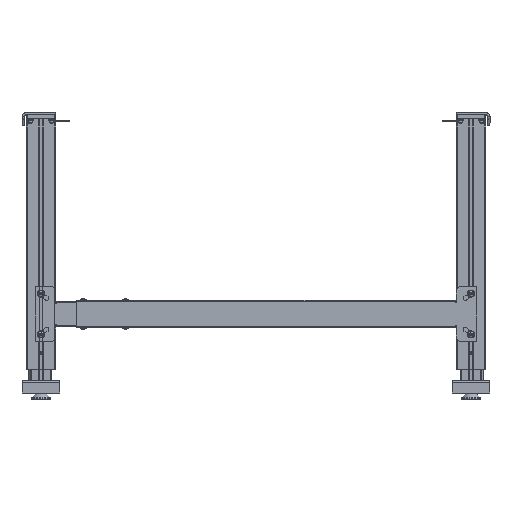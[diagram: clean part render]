
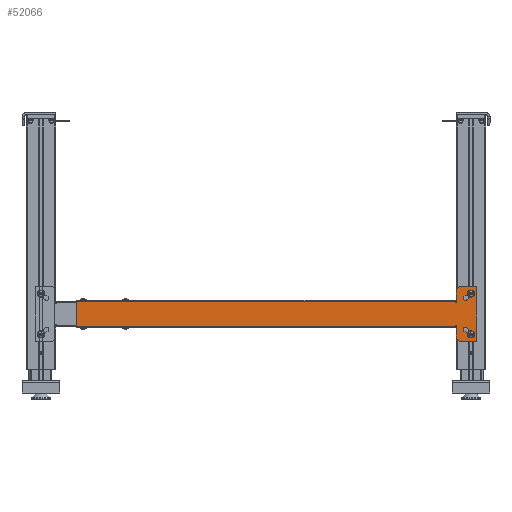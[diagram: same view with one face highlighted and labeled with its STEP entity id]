
A CAD part, left-side view. The second image highlights one B-rep face of the part: STEP entity #52066.
In plain terms, the highlighted planar face has unit normal (-1, 0, 0) as drawn and (0, 0, -1) by its records, which use the part's own axes.
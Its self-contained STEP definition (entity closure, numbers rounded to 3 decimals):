
#3977=CIRCLE('',#68711,4.75);
#3979=CIRCLE('',#68716,4.75);
#3987=CIRCLE('',#68733,4.75);
#3988=CIRCLE('',#68734,4.75);
#3989=CIRCLE('',#68735,10.);
#3990=CIRCLE('',#68736,10.);
#3991=CIRCLE('',#68737,1.75);
#3992=CIRCLE('',#68738,1.75);
#17549=ORIENTED_EDGE('',*,*,#26263,.F.);
#17550=ORIENTED_EDGE('',*,*,#26227,.F.);
#17551=ORIENTED_EDGE('',*,*,#26231,.F.);
#17552=ORIENTED_EDGE('',*,*,#26234,.F.);
#17553=ORIENTED_EDGE('',*,*,#26264,.F.);
#17554=ORIENTED_EDGE('',*,*,#26217,.F.);
#17555=ORIENTED_EDGE('',*,*,#26221,.F.);
#17556=ORIENTED_EDGE('',*,*,#26224,.F.);
#17557=ORIENTED_EDGE('',*,*,#26246,.F.);
#17558=ORIENTED_EDGE('',*,*,#26265,.T.);
#17559=ORIENTED_EDGE('',*,*,#26241,.F.);
#17560=ORIENTED_EDGE('',*,*,#26239,.F.);
#17561=ORIENTED_EDGE('',*,*,#26254,.F.);
#17562=ORIENTED_EDGE('',*,*,#26266,.T.);
#17563=ORIENTED_EDGE('',*,*,#26248,.F.);
#17564=ORIENTED_EDGE('',*,*,#26267,.F.);
#17565=ORIENTED_EDGE('',*,*,#26173,.T.);
#17566=ORIENTED_EDGE('',*,*,#26256,.F.);
#17567=ORIENTED_EDGE('',*,*,#26215,.T.);
#17568=ORIENTED_EDGE('',*,*,#26268,.F.);
#26173=EDGE_CURVE('',#31667,#31666,#36824,.T.);
#26215=EDGE_CURVE('',#31696,#31697,#36845,.T.);
#26217=EDGE_CURVE('',#31698,#31699,#36846,.T.);
#26221=EDGE_CURVE('',#31702,#31698,#3977,.T.);
#26224=EDGE_CURVE('',#31704,#31702,#36851,.T.);
#26227=EDGE_CURVE('',#31706,#31707,#36854,.T.);
#26231=EDGE_CURVE('',#31710,#31706,#3979,.T.);
#26234=EDGE_CURVE('',#31712,#31710,#36859,.T.);
#26239=EDGE_CURVE('',#31716,#31717,#36864,.T.);
#26241=EDGE_CURVE('',#31717,#31718,#36866,.T.);
#26246=EDGE_CURVE('',#31722,#31723,#36871,.T.);
#26248=EDGE_CURVE('',#31724,#31725,#36873,.T.);
#26254=EDGE_CURVE('',#31729,#31716,#36879,.T.);
#26256=EDGE_CURVE('',#31696,#31666,#36881,.T.);
#26263=EDGE_CURVE('',#31707,#31712,#3987,.T.);
#26264=EDGE_CURVE('',#31699,#31704,#3988,.T.);
#26265=EDGE_CURVE('',#31722,#31718,#3989,.T.);
#26266=EDGE_CURVE('',#31729,#31725,#3990,.T.);
#26267=EDGE_CURVE('',#31667,#31724,#3991,.T.);
#26268=EDGE_CURVE('',#31723,#31697,#3992,.T.);
#31666=VERTEX_POINT('',#98464);
#31667=VERTEX_POINT('',#98466);
#31696=VERTEX_POINT('',#98553);
#31697=VERTEX_POINT('',#98555);
#31698=VERTEX_POINT('',#98564);
#31699=VERTEX_POINT('',#98565);
#31702=VERTEX_POINT('',#98573);
#31704=VERTEX_POINT('',#98579);
#31706=VERTEX_POINT('',#98585);
#31707=VERTEX_POINT('',#98586);
#31710=VERTEX_POINT('',#98594);
#31712=VERTEX_POINT('',#98600);
#31716=VERTEX_POINT('',#98609);
#31717=VERTEX_POINT('',#98611);
#31718=VERTEX_POINT('',#98615);
#31722=VERTEX_POINT('',#98624);
#31723=VERTEX_POINT('',#98626);
#31724=VERTEX_POINT('',#98630);
#31725=VERTEX_POINT('',#98631);
#31729=VERTEX_POINT('',#98641);
#36824=LINE('',#98465,#41794);
#36845=LINE('',#98556,#41815);
#36846=LINE('',#98563,#41816);
#36851=LINE('',#98578,#41821);
#36854=LINE('',#98584,#41824);
#36859=LINE('',#98599,#41829);
#36864=LINE('',#98610,#41834);
#36866=LINE('',#98614,#41836);
#36871=LINE('',#98625,#41841);
#36873=LINE('',#98629,#41843);
#36879=LINE('',#98642,#41849);
#36881=LINE('',#98645,#41851);
#41794=VECTOR('',#82351,1000.);
#41815=VECTOR('',#82434,1000.);
#41816=VECTOR('',#82439,1000.);
#41821=VECTOR('',#82452,1000.);
#41824=VECTOR('',#82457,1000.);
#41829=VECTOR('',#82470,1000.);
#41834=VECTOR('',#82477,1000.);
#41836=VECTOR('',#82481,1000.);
#41841=VECTOR('',#82488,1000.);
#41843=VECTOR('',#82492,1000.);
#41849=VECTOR('',#82500,1000.);
#41851=VECTOR('',#82504,1000.);
#44694=EDGE_LOOP('',(#17549,#17550,#17551,#17552));
#44695=EDGE_LOOP('',(#17553,#17554,#17555,#17556));
#44696=EDGE_LOOP('',(#17557,#17558,#17559,#17560,#17561,#17562,#17563,#17564,
#17565,#17566,#17567,#17568));
#47679=FACE_BOUND('',#44694,.T.);
#47680=FACE_BOUND('',#44695,.T.);
#47681=FACE_BOUND('',#44696,.T.);
#49587=PLANE('',#68732);
#52066=ADVANCED_FACE('',(#47679,#47680,#47681),#49587,.T.);
#68711=AXIS2_PLACEMENT_3D('',#98572,#82445,#82446);
#68716=AXIS2_PLACEMENT_3D('',#98593,#82463,#82464);
#68732=AXIS2_PLACEMENT_3D('',#98653,#82519,#82520);
#68733=AXIS2_PLACEMENT_3D('',#98654,#82521,#82522);
#68734=AXIS2_PLACEMENT_3D('',#98655,#82523,#82524);
#68735=AXIS2_PLACEMENT_3D('',#98656,#82525,#82526);
#68736=AXIS2_PLACEMENT_3D('',#98657,#82527,#82528);
#68737=AXIS2_PLACEMENT_3D('',#98658,#82529,#82530);
#68738=AXIS2_PLACEMENT_3D('',#98659,#82531,#82532);
#82351=DIRECTION('',(1.,0.,0.));
#82434=DIRECTION('',(-1.,0.,0.));
#82439=DIRECTION('',(0.766,0.643,0.));
#82445=DIRECTION('',(0.,0.,-1.));
#82446=DIRECTION('',(-1.,0.,0.));
#82452=DIRECTION('',(-0.766,-0.643,0.));
#82457=DIRECTION('',(0.766,-0.643,0.));
#82463=DIRECTION('',(0.,0.,-1.));
#82464=DIRECTION('',(-1.,0.,0.));
#82470=DIRECTION('',(-0.766,0.643,0.));
#82477=DIRECTION('',(0.,-1.,0.));
#82481=DIRECTION('',(1.,0.,0.));
#82488=DIRECTION('',(0.,1.,0.));
#82492=DIRECTION('',(0.,1.,0.));
#82500=DIRECTION('',(-1.,0.,0.));
#82504=DIRECTION('',(0.,1.,0.));
#82519=DIRECTION('',(0.,0.,-1.));
#82520=DIRECTION('',(-1.,0.,0.));
#82521=DIRECTION('',(0.,0.,-1.));
#82522=DIRECTION('',(-1.,0.,0.));
#82523=DIRECTION('',(0.,0.,-1.));
#82524=DIRECTION('',(-1.,0.,0.));
#82525=DIRECTION('',(0.,0.,-1.));
#82526=DIRECTION('',(-1.,0.,0.));
#82527=DIRECTION('',(0.,0.,-1.));
#82528=DIRECTION('',(-1.,0.,0.));
#82529=DIRECTION('',(0.,0.,-1.));
#82530=DIRECTION('',(-1.,0.,0.));
#82531=DIRECTION('',(0.,0.,-1.));
#82532=DIRECTION('',(1.,0.,0.));
#98464=CARTESIAN_POINT('',(924.,29.9,-2.5));
#98465=CARTESIAN_POINT('',(26.,29.9,-2.5));
#98466=CARTESIAN_POINT('',(26.747,29.9,-2.5));
#98553=CARTESIAN_POINT('',(924.,-29.9,-2.5));
#98555=CARTESIAN_POINT('',(26.754,-29.9,-2.5));
#98556=CARTESIAN_POINT('',(924.,-29.9,-2.5));
#98563=CARTESIAN_POINT('',(16.196,-19.301,-2.5));
#98564=CARTESIAN_POINT('',(-16.053,-46.361,-2.5));
#98565=CARTESIAN_POINT('',(-0.349,-33.184,-2.5));
#98572=CARTESIAN_POINT('',(-13.,-50.,-2.5));
#98573=CARTESIAN_POINT('',(-9.947,-53.639,-2.5));
#98578=CARTESIAN_POINT('',(22.302,-26.579,-2.5));
#98579=CARTESIAN_POINT('',(5.757,-40.462,-2.5));
#98584=CARTESIAN_POINT('',(22.302,26.579,-2.5));
#98585=CARTESIAN_POINT('',(-9.947,53.639,-2.5));
#98586=CARTESIAN_POINT('',(5.757,40.462,-2.5));
#98593=CARTESIAN_POINT('',(-13.,50.,-2.5));
#98594=CARTESIAN_POINT('',(-16.053,46.361,-2.5));
#98599=CARTESIAN_POINT('',(16.196,19.301,-2.5));
#98600=CARTESIAN_POINT('',(-0.349,33.184,-2.5));
#98609=CARTESIAN_POINT('',(-24.,65.,-2.5));
#98610=CARTESIAN_POINT('',(-24.,65.,-2.5));
#98611=CARTESIAN_POINT('',(-24.,-65.,-2.5));
#98614=CARTESIAN_POINT('',(-24.,-65.,-2.5));
#98615=CARTESIAN_POINT('',(14.,-65.,-2.5));
#98624=CARTESIAN_POINT('',(24.,-55.,-2.5));
#98625=CARTESIAN_POINT('',(24.,65.,-2.5));
#98626=CARTESIAN_POINT('',(24.,-31.436,-2.5));
#98629=CARTESIAN_POINT('',(24.,65.,-2.5));
#98630=CARTESIAN_POINT('',(24.,31.436,-2.5));
#98631=CARTESIAN_POINT('',(24.,55.,-2.5));
#98641=CARTESIAN_POINT('',(14.,65.,-2.5));
#98642=CARTESIAN_POINT('',(-24.,65.,-2.5));
#98645=CARTESIAN_POINT('',(924.,30.,-2.5));
#98653=CARTESIAN_POINT('',(0.,0.,-2.5));
#98654=CARTESIAN_POINT('',(2.704,36.823,-2.5));
#98655=CARTESIAN_POINT('',(2.704,-36.823,-2.5));
#98656=CARTESIAN_POINT('',(14.,-55.,-2.5));
#98657=CARTESIAN_POINT('',(14.,55.,-2.5));
#98658=CARTESIAN_POINT('',(25.,30.,-2.5));
#98659=CARTESIAN_POINT('',(25.,-30.,-2.5));
